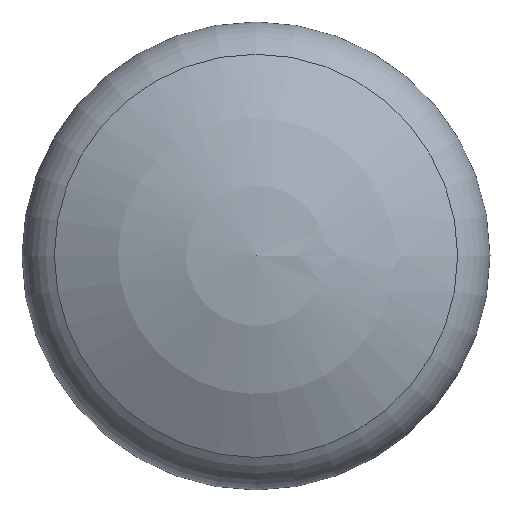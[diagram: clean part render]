
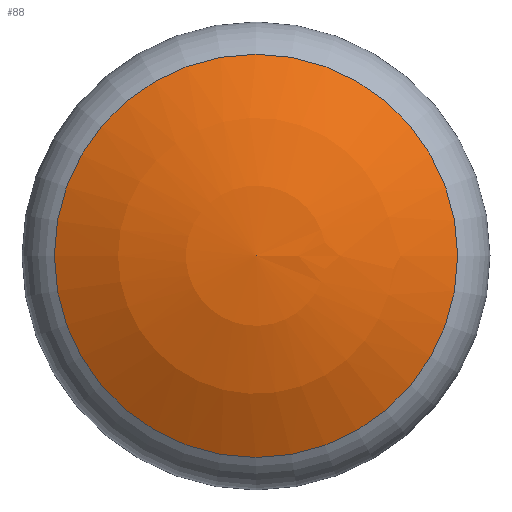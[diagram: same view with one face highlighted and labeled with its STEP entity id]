
A CAD part, top view. The second image highlights one B-rep face of the part: STEP entity #88.
In plain terms, the highlighted spherical face has radius 15.452 mm.
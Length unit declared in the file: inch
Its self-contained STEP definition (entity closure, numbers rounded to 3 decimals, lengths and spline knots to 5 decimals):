
#13=SPHERICAL_SURFACE($,#104,0.60833);
#30=FACE_OUTER_BOUND($,#40,.T.);
#40=EDGE_LOOP($,(#75));
#49=CIRCLE($,#100,0.30685);
#56=VERTEX_POINT($,#150);
#63=EDGE_CURVE($,#56,#56,#49,.T.);
#75=ORIENTED_EDGE($,*,*,#63,.F.);
#88=ADVANCED_FACE($,(#30),#13,.T.);
#100=AXIS2_PLACEMENT_3D($,#151,#122,#123);
#104=AXIS2_PLACEMENT_3D($,#157,#130,#131);
#122=DIRECTION('center_axis',(0.,0.,-1.));
#123=DIRECTION('ref_axis',(0.,-1.,0.));
#130=DIRECTION('center_axis',(0.,0.,1.));
#131=DIRECTION('ref_axis',(1.,0.,0.));
#150=CARTESIAN_POINT('',(0.,0.30685,0.91694));
#151=CARTESIAN_POINT('Origin',(0.,0.,0.91694));
#157=CARTESIAN_POINT('Origin',(0.,0.,0.39167));
